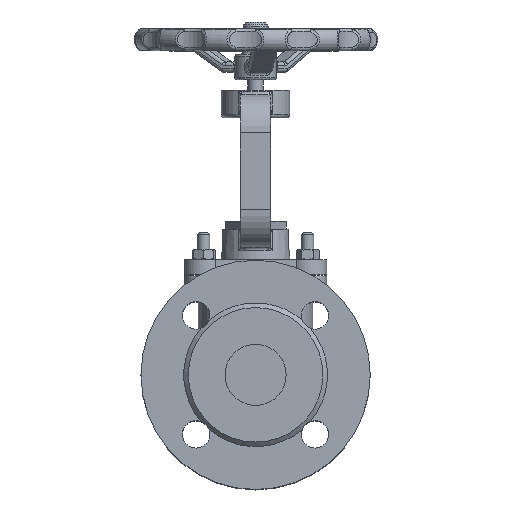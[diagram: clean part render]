
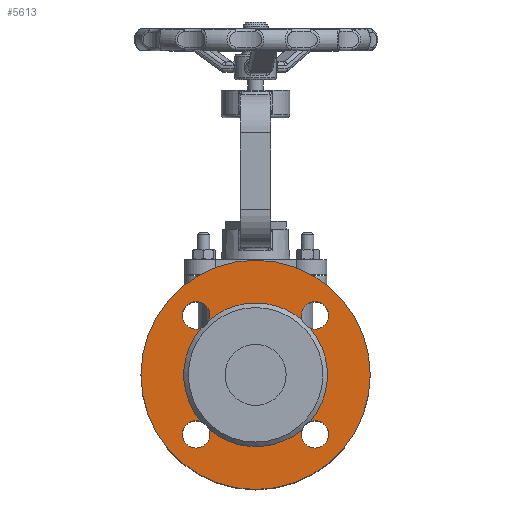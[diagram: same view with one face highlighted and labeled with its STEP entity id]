
A CAD part, top view. The second image highlights one B-rep face of the part: STEP entity #5613.
In plain terms, the highlighted planar face has unit normal (0, 0, 1).
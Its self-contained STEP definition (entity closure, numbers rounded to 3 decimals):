
#5613=ADVANCED_FACE('',(#13487,#13489),#13491,.F.);
#13487=FACE_BOUND('',#13488,.T.);
#13488=EDGE_LOOP('',(#20891));
#13489=FACE_BOUND('',#13490,.T.);
#13490=EDGE_LOOP('',(#20892,#20893,#20894,#20895,#20896,#20897,#20898,#20899,#20900,
#20901,#20902,#20903,#20904));
#13491=PLANE('',#13492);
#13492=AXIS2_PLACEMENT_3D('',#13493,#13494,#13495);
#13493=CARTESIAN_POINT('',(0.,0.,97.));
#13494=DIRECTION('',(0.,0.,-1.));
#13495=DIRECTION('',(0.,1.,0.));
#20891=ORIENTED_EDGE('',*,*,#23777,.T.);
#20892=ORIENTED_EDGE('',*,*,#23780,.T.);
#20893=ORIENTED_EDGE('',*,*,#23976,.F.);
#20894=ORIENTED_EDGE('',*,*,#23787,.T.);
#20895=ORIENTED_EDGE('',*,*,#23789,.T.);
#20896=ORIENTED_EDGE('',*,*,#23977,.F.);
#20897=ORIENTED_EDGE('',*,*,#23782,.T.);
#20898=ORIENTED_EDGE('',*,*,#23781,.T.);
#20899=ORIENTED_EDGE('',*,*,#23978,.F.);
#20900=ORIENTED_EDGE('',*,*,#23979,.F.);
#20901=ORIENTED_EDGE('',*,*,#23785,.T.);
#20902=ORIENTED_EDGE('',*,*,#23784,.T.);
#20903=ORIENTED_EDGE('',*,*,#23980,.F.);
#20904=ORIENTED_EDGE('',*,*,#23778,.T.);
#23777=EDGE_CURVE('',#27101,#27101,#27102,.T.);
#23778=EDGE_CURVE('',#27103,#27104,#27105,.T.);
#23780=EDGE_CURVE('',#27104,#27106,#27108,.T.);
#23781=EDGE_CURVE('',#27109,#27110,#27111,.T.);
#23782=EDGE_CURVE('',#27112,#27109,#27113,.T.);
#23784=EDGE_CURVE('',#27115,#27116,#27117,.T.);
#23785=EDGE_CURVE('',#27118,#27115,#27119,.T.);
#23787=EDGE_CURVE('',#27121,#27122,#27123,.T.);
#23789=EDGE_CURVE('',#27122,#27124,#27126,.T.);
#23976=EDGE_CURVE('',#27121,#27106,#27410,.T.);
#23977=EDGE_CURVE('',#27112,#27124,#27411,.T.);
#23978=EDGE_CURVE('',#27412,#27110,#27413,.T.);
#23979=EDGE_CURVE('',#27118,#27412,#27414,.T.);
#23980=EDGE_CURVE('',#27103,#27116,#27415,.T.);
#27101=VERTEX_POINT('',#53847);
#27102=CIRCLE('',#53848,75.);
#27103=VERTEX_POINT('',#53852);
#27104=VERTEX_POINT('',#53853);
#27105=CIRCLE('',#53854,9.);
#27106=VERTEX_POINT('',#53858);
#27108=CIRCLE('',#53934,9.);
#27109=VERTEX_POINT('',#53938);
#27110=VERTEX_POINT('',#53939);
#27111=CIRCLE('',#53940,9.);
#27112=VERTEX_POINT('',#53944);
#27113=CIRCLE('',#53945,9.);
#27115=VERTEX_POINT('',#54024);
#27116=VERTEX_POINT('',#54025);
#27117=CIRCLE('',#54026,9.);
#27118=VERTEX_POINT('',#54030);
#27119=CIRCLE('',#54031,9.);
#27121=VERTEX_POINT('',#54110);
#27122=VERTEX_POINT('',#54111);
#27123=CIRCLE('',#54112,9.);
#27124=VERTEX_POINT('',#54116);
#27126=CIRCLE('',#54192,9.);
#27410=CIRCLE('',#56846,47.);
#27411=CIRCLE('',#56850,47.);
#27412=VERTEX_POINT('',#56854);
#27413=CIRCLE('',#56855,47.);
#27414=CIRCLE('',#56859,47.);
#27415=CIRCLE('',#56863,47.);
#53847=CARTESIAN_POINT('',(0.,75.,97.));
#53848=AXIS2_PLACEMENT_3D('',#53849,#53850,#53851);
#53849=CARTESIAN_POINT('',(0.,0.,97.));
#53850=DIRECTION('',(0.,0.,1.));
#53851=DIRECTION('',(0.,1.,0.));
#53852=CARTESIAN_POINT('',(35.818,-30.432,97.));
#53853=CARTESIAN_POINT('',(38.891,-29.891,97.));
#53854=AXIS2_PLACEMENT_3D('',#53855,#53856,#53857);
#53855=CARTESIAN_POINT('',(38.891,-38.891,97.));
#53856=DIRECTION('',(0.,0.,-1.));
#53857=DIRECTION('',(-0.341,0.94,0.));
#53858=CARTESIAN_POINT('',(30.432,-35.818,97.));
#53934=AXIS2_PLACEMENT_3D('',#53935,#53936,#53937);
#53935=CARTESIAN_POINT('',(38.891,-38.891,97.));
#53936=DIRECTION('',(0.,0.,-1.));
#53937=DIRECTION('',(0.,1.,0.));
#53938=CARTESIAN_POINT('',(-38.891,29.891,97.));
#53939=CARTESIAN_POINT('',(-30.432,35.818,97.));
#53940=AXIS2_PLACEMENT_3D('',#53941,#53942,#53943);
#53941=CARTESIAN_POINT('',(-38.891,38.891,97.));
#53942=DIRECTION('',(0.,0.,-1.));
#53943=DIRECTION('',(0.,-1.,0.));
#53944=CARTESIAN_POINT('',(-35.818,30.432,97.));
#53945=AXIS2_PLACEMENT_3D('',#53946,#53947,#53948);
#53946=CARTESIAN_POINT('',(-38.891,38.891,97.));
#53947=DIRECTION('',(0.,0.,-1.));
#53948=DIRECTION('',(0.341,-0.94,0.));
#54024=CARTESIAN_POINT('',(29.891,38.891,97.));
#54025=CARTESIAN_POINT('',(35.818,30.432,97.));
#54026=AXIS2_PLACEMENT_3D('',#54027,#54028,#54029);
#54027=CARTESIAN_POINT('',(38.891,38.891,97.));
#54028=DIRECTION('',(0.,0.,-1.));
#54029=DIRECTION('',(-1.,0.,0.));
#54030=CARTESIAN_POINT('',(30.432,35.818,97.));
#54031=AXIS2_PLACEMENT_3D('',#54032,#54033,#54034);
#54032=CARTESIAN_POINT('',(38.891,38.891,97.));
#54033=DIRECTION('',(0.,0.,-1.));
#54034=DIRECTION('',(-0.94,-0.341,0.));
#54110=CARTESIAN_POINT('',(-30.432,-35.818,97.));
#54111=CARTESIAN_POINT('',(-29.891,-38.891,97.));
#54112=AXIS2_PLACEMENT_3D('',#54113,#54114,#54115);
#54113=CARTESIAN_POINT('',(-38.891,-38.891,97.));
#54114=DIRECTION('',(0.,0.,-1.));
#54115=DIRECTION('',(0.94,0.341,0.));
#54116=CARTESIAN_POINT('',(-35.818,-30.432,97.));
#54192=AXIS2_PLACEMENT_3D('',#54193,#54194,#54195);
#54193=CARTESIAN_POINT('',(-38.891,-38.891,97.));
#54194=DIRECTION('',(0.,0.,-1.));
#54195=DIRECTION('',(1.,0.,0.));
#56846=AXIS2_PLACEMENT_3D('',#56847,#56848,#56849);
#56847=CARTESIAN_POINT('',(0.,0.,97.));
#56848=DIRECTION('',(0.,0.,1.));
#56849=DIRECTION('',(-0.647,-0.762,0.));
#56850=AXIS2_PLACEMENT_3D('',#56851,#56852,#56853);
#56851=CARTESIAN_POINT('',(0.,0.,97.));
#56852=DIRECTION('',(0.,0.,1.));
#56853=DIRECTION('',(-0.762,0.647,0.));
#56854=CARTESIAN_POINT('',(0.,47.,97.));
#56855=AXIS2_PLACEMENT_3D('',#56856,#56857,#56858);
#56856=CARTESIAN_POINT('',(0.,0.,97.));
#56857=DIRECTION('',(0.,0.,1.));
#56858=DIRECTION('',(0.,1.,0.));
#56859=AXIS2_PLACEMENT_3D('',#56860,#56861,#56862);
#56860=CARTESIAN_POINT('',(0.,0.,97.));
#56861=DIRECTION('',(0.,0.,1.));
#56862=DIRECTION('',(0.647,0.762,0.));
#56863=AXIS2_PLACEMENT_3D('',#56864,#56865,#56866);
#56864=CARTESIAN_POINT('',(0.,0.,97.));
#56865=DIRECTION('',(0.,0.,1.));
#56866=DIRECTION('',(0.762,-0.647,0.));
